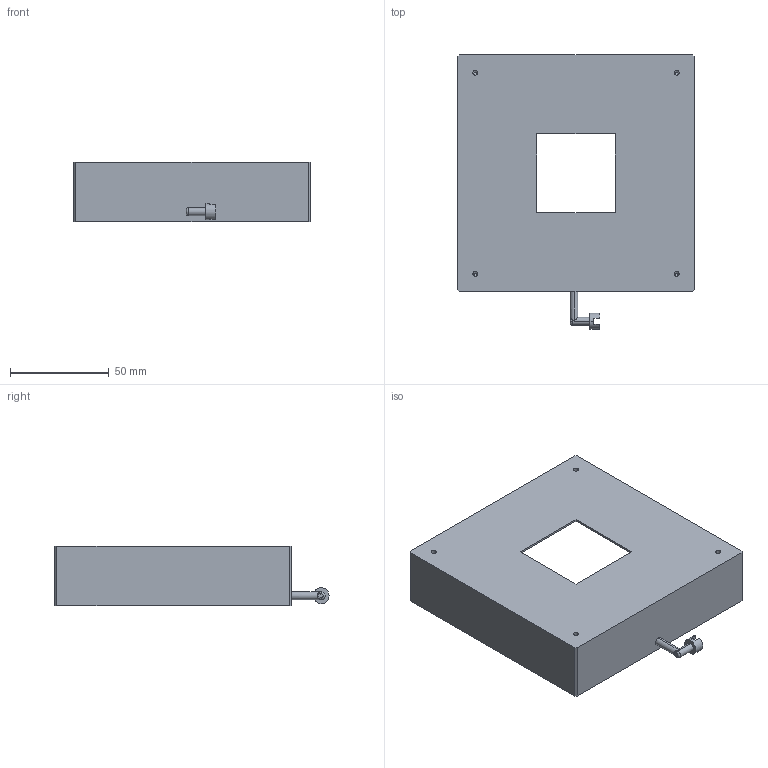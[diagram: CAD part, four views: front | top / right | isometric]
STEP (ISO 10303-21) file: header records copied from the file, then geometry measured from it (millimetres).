
FILE_DESCRIPTION (( 'STEP AP203' ), '1' );
FILE_NAME ('CK-QNL120.STEP', '2026-03-13T03:50:44', ( '' ), ( '' ), 'SwSTEP 2.0', 'SolidWorks 2022', '' );
FILE_SCHEMA (( 'CONFIG_CONTROL_DESIGN' ));
Length unit declared in the file: millimetre
Products named in the file (1): CK-QNL120
Bounding box: 120 x 139 x 30 mm (x, y, z)
Volume: 122527.3 mm3; surface area: 52593.2 mm2
Topology: 1 solids, 1 shells, 68 faces, 171 edges, 103 vertices
Faces by surface type: plane 31, cylinder 24, cone 8, torus 3, bspline 2
Entity records: 2112 total; most frequent: CARTESIAN_POINT 436, DIRECTION 342, ORIENTED_EDGE 322, EDGE_CURVE 161, AXIS2_PLACEMENT_3D 121, VERTEX_POINT 103, VECTOR 100, LINE 100
